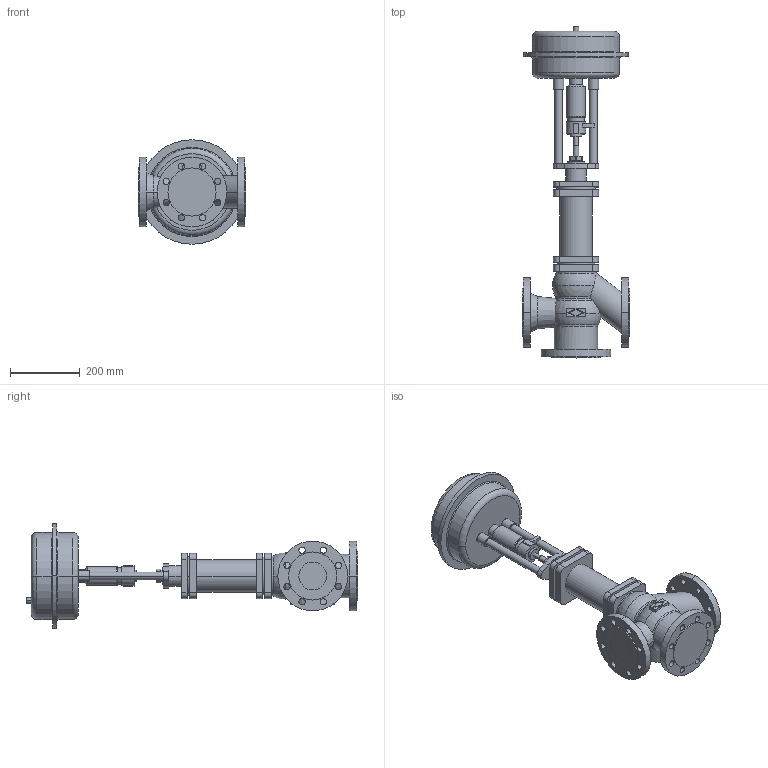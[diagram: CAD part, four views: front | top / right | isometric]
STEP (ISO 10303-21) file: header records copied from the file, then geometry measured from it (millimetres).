
FILE_DESCRIPTION(('OneSpaceDesigner STEP Export'),'2;1');
FILE_NAME('c000000759.stp','2006-09-21T 8:46:01',(''),(''),'OneSpace Designer STEP processor for AP214 (Solid Model)','OneSpace Designer 13.20A 18-Aug-2005 (C) CoCreate Software GmbH','');
FILE_SCHEMA(('AUTOMOTIVE_DESIGN { 1 0 10303 214 1 1 1 1 }'));
Length unit declared in the file: millimetre
Products named in the file (2): 1; 2
Bounding box: 310 x 953.3 x 300 mm (x, y, z)
Volume: 16354065.5 mm3; surface area: 848170.4 mm2
Topology: 2 solids, 2 shells, 278 faces, 701 edges, 457 vertices
Faces by surface type: cylinder 140, plane 97, torus 29, cone 8, sphere 4
Entity records: 7732 total; most frequent: CARTESIAN_POINT 1560, ORIENTED_EDGE 1394, DIRECTION 1126, EDGE_CURVE 697, VERTEX_POINT 457, AXIS2_PLACEMENT_3D 413, EDGE_LOOP 360, VECTOR 300
